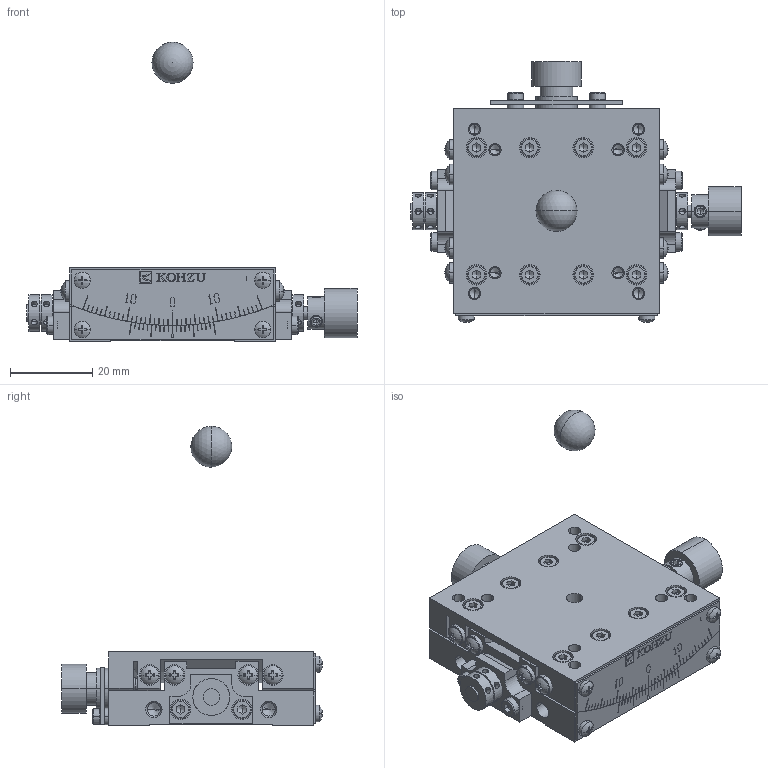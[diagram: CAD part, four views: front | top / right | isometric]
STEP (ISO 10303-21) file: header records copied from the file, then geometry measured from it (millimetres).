
FILE_DESCRIPTION (( 'STEP AP203' ), '1' );
FILE_NAME ('SH05B-RT.STEP', '2016-09-28T08:19:51', ( '' ), ( '' ), 'SwSTEP 2.0', 'SolidWorks 2011', '' );
FILE_SCHEMA (( 'CONFIG_CONTROL_DESIGN' ));
Products named in the file (4): SH05B-RT; base-8; table-4; rotation-center-8
Assembly tree (3 placements, depth 2):
  SH05B-RT
    rotation-center-8
    base-8
    table-4
Bounding box: 80.5 x 63.59 x 73 mm (x, y, z)
Volume: 43516.4 mm3; surface area: 26182.2 mm2
Topology: 3 solids, 39 shells, 2025 faces, 4903 edges, 2938 vertices
Faces by surface type: plane 998, cylinder 639, cone 276, torus 80, sphere 26, bspline 6
Entity records: 62527 total; most frequent: CARTESIAN_POINT 14770, DIRECTION 10308, ORIENTED_EDGE 9508, EDGE_CURVE 4754, AXIS2_PLACEMENT_3D 3833, VERTEX_POINT 2935, VECTOR 2642, LINE 2642
